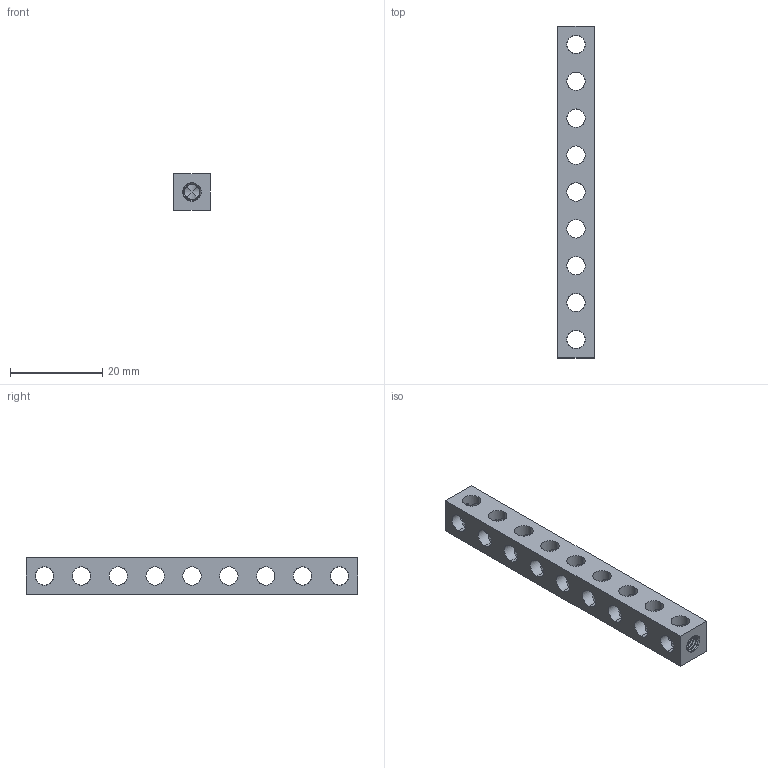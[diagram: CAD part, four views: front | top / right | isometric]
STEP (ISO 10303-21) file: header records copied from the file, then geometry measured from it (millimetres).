
FILE_DESCRIPTION (( 'STEP AP203' ), '1' );
FILE_NAME ('1106-0009-0072.STEP', '2017-09-08T14:45:14', ( '' ), ( '' ), 'SwSTEP 2.0', 'SolidWorks 2016', '' );
FILE_SCHEMA (( 'CONFIG_CONTROL_DESIGN' ));
Products named in the file (1): 1106-0009-0072
Bounding box: 8 x 72 x 8 mm (x, y, z)
Volume: 3054.7 mm3; surface area: 3356.9 mm2
Topology: 1 solids, 1 shells, 226 faces, 690 edges, 442 vertices
Faces by surface type: cylinder 180, bspline 34, cone 6, plane 6
Entity records: 45349 total; most frequent: CARTESIAN_POINT 40295, ORIENTED_EDGE 1380, DIRECTION 712, EDGE_CURVE 690, VERTEX_POINT 442, AXIS2_PLACEMENT_3D 275, EDGE_LOOP 264, ADVANCED_FACE 226
